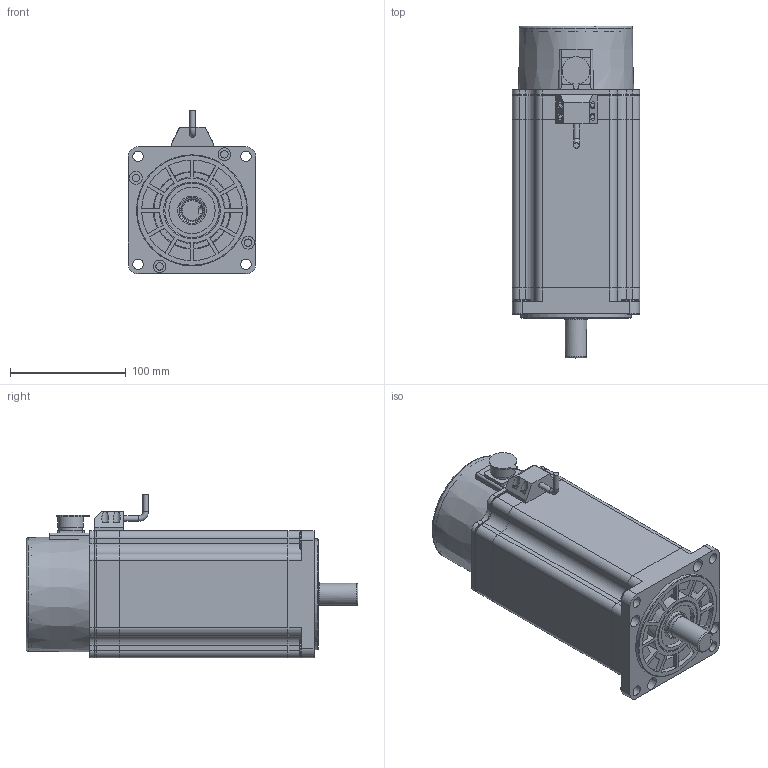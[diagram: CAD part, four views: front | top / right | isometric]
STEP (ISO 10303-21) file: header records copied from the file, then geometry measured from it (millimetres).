
FILE_DESCRIPTION(/* description */ (''),/* implementation_level */ '2;1');
FILE_NAME(/* name */ '110BYG350D(止口φ95).stp',/* time_stamp */ '2024-08-16T09:53:53+08:00',/* author */ (''),/* organization */ (''),/* preprocessor_version */ 'ST-DEVELOPER v18.1',/* originating_system */ 'SIEMENS PLM Software NX 2000',/* authorisation */ '');
FILE_SCHEMA (('AUTOMOTIVE_DESIGN { 1 0 10303 214 3 1 1 1 }'));
Length unit declared in the file: millimetre
Products named in the file (1): 925032A4A3696tlk
Bounding box: 110 x 287 x 141.72 mm (x, y, z)
Volume: 1967573.2 mm3; surface area: 256027.8 mm2
Topology: 10 solids, 10 shells, 669 faces, 1833 edges, 1216 vertices
Faces by surface type: plane 425, cylinder 178, torus 33, cone 33
Full cylindrical faces by diameter (mm): 3 x4, 3.5 x4, 4.8 x2, 6 x4, 6.5 x12, 7 x1, 9 x4, 11 x4, 15 x4, 16.5 x1, 19 x1, 19.7 x1, 20 x1, 20.196 x2, 22.032 x1, 22.288 x1, 24.616 x1, 40 x1, 47 x3, 50 x1, 56 x1, 69 x1, 70 x1, 96 x1
Entity records: 21488 total; most frequent: CARTESIAN_POINT 4448, DIRECTION 3432, ORIENTED_EDGE 3420, EDGE_CURVE 1710, VERTEX_POINT 1172, AXIS2_PLACEMENT_3D 1158, LINE 1116, VECTOR 1116
